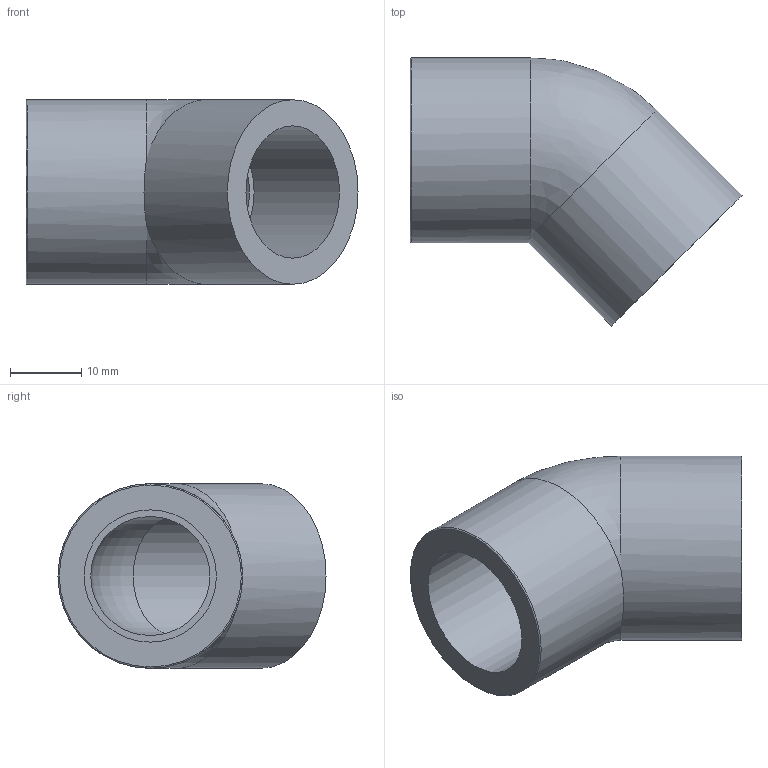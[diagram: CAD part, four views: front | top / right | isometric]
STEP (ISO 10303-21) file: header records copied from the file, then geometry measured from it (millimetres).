
FILE_DESCRIPTION(/* description */ ('PLASSON THREADED 45° ELBOW HF 1/2"'),/* implementation_level */ '2;1');
FILE_NAME(/* name */ 'C:\Dropbox\KIMPROJECTS-Inventor\99-16-3568-Processing\PVC Catalog 2017\26_09_18\054501\054501005.ipt.stp',/* time_stamp */ '2018-09-27T11:50:27+03:00',/* author */ ('KIM'),/* organization */ (''),/* preprocessor_version */ 'ST-DEVELOPER v15.6',/* originating_system */ 'Autodesk Inventor 2015',/* authorisation */ '');
FILE_SCHEMA (('AUTOMOTIVE_DESIGN { 1 0 10303 214 3 1 1 }'));
Length unit declared in the file: millimetre
Products named in the file (1): 054501005
Bounding box: 46.75 x 37.75 x 26 mm (x, y, z)
Volume: 11770.9 mm3; surface area: 6656 mm2
Topology: 1 solids, 1 shells, 11 faces, 22 edges, 13 vertices
Faces by surface type: cylinder 4, plane 4, torus 2, bspline 1
Full cylindrical faces by diameter (mm): 18.631 x2, 26 x2
Entity records: 280 total; most frequent: CARTESIAN_POINT 61, DIRECTION 46, ORIENTED_EDGE 24, AXIS2_PLACEMENT_3D 23, EDGE_LOOP 21, EDGE_CURVE 12, FACE_OUTER_BOUND 11, CIRCLE 11
